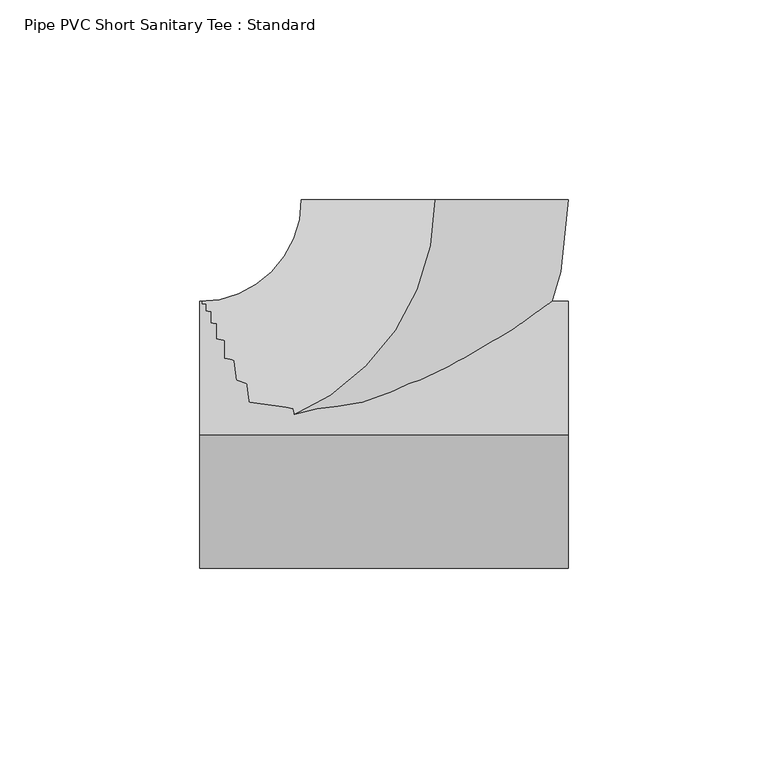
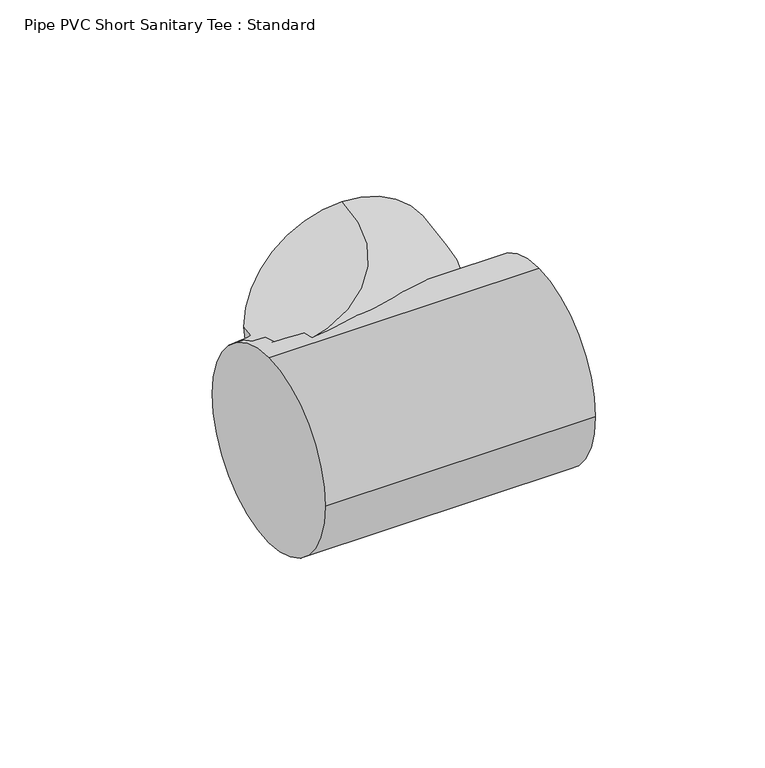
"""IFC4 building model written with IfcOpenShell, lengths in millimetres: pipe fitting geometry, Pipe PVC Short Sanitary Tee : Standard."""

from ifc_helpers import new_model, si_unit, point, frame, origin, origin_2d, place, context, project, spatial, circle_curve, ellipse_curve, trimmed, segment, composite_curve, outline, extrude, source, transform, mapped, element, save
from ifc_brep_helpers import plane_surface, revolved_surface, advanced_brep


def pipe_pvc_short_sanitary_tee_standard_372b41e4(model_context):
    return source(origin(), model_context, "Body", "SolidModel", [
        extrude(outline(composite_curve([segment(trimmed(circle_curve(origin_2d(), 33.3375), [point((0.0, 33.3375))], [point((33.3375, 0.0))], False, "CARTESIAN"), True, "CONTINUOUS"), segment(trimmed(circle_curve(origin_2d(), 33.3375), [point((33.3375, 0.0))], [point((0.0, -33.3375))], False, "CARTESIAN"), True, "CONTINUOUS"), segment(trimmed(circle_curve(origin_2d(), 33.3375), [point((0.0, -33.3375))], [point((-33.3375, 0.0))], False, "CARTESIAN"), True, "CONTINUOUS"), segment(trimmed(circle_curve(origin_2d(), 33.3375), [point((-33.3375, 0.0))], [point((0.0, 33.3375))], False, "CARTESIAN"), True, "CONTINUOUS")], self_intersect=False)), frame((-58.7321562, 0.0, 0.0), z_axis=(1.0, 0.0, 0.0), x_axis=(0.0, 1.0, 0.0)), (0.0, 0.0, 1.0), 92.0749998),
        advanced_brep(
        [(-58.7321562, 0.0, 33.3375), (-58.7321562, 33.3375, 0.0), (-58.7321562, 0.0, -33.3375), (-58.7321562, -33.3375, 0.0), (0.0053436, 58.732156, 33.3375), (33.3428434, 58.7291228, 0.0), (0.0053436, 58.732156, -33.3375), (-33.3321563, 58.7351891, 0.0)],
        [
            (0, 1, circle_curve(frame((-58.7321562, 0.0, 0.0), z_axis=(-1.0, 0.0, 0.0), x_axis=(0.0, 1.0, 0.0)), 33.3375)),
            (1, 2, circle_curve(frame((-58.7321562, 0.0, 0.0), z_axis=(-1.0, 0.0, 0.0), x_axis=(0.0, 1.0, 0.0)), 33.3375)),
            (2, 3, circle_curve(frame((-58.7321562, 0.0, 0.0), z_axis=(-1.0, 0.0, 0.0), x_axis=(0.0, 1.0, 0.0)), 33.3375)),
            (3, 0, circle_curve(frame((-58.7321562, 0.0, 0.0), z_axis=(-1.0, 0.0, 0.0), x_axis=(0.0, 1.0, 0.0)), 33.3375)),
            (4, 5, circle_curve(frame((0.0053436, 58.732156, 0.0), z_axis=(9.098188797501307e-05, 0.9999999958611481, 0.0), x_axis=(-0.9999999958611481, 9.098188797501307e-05, 0.0)), 33.3375)),
            (5, 6, circle_curve(frame((0.0053436, 58.732156, 0.0), z_axis=(9.098188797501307e-05, 0.9999999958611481, 0.0), x_axis=(-0.9999999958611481, 9.098188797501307e-05, 0.0)), 33.3375)),
            (6, 7, circle_curve(frame((0.0053436, 58.732156, 0.0), z_axis=(9.098188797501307e-05, 0.9999999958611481, 0.0), x_axis=(-0.9999999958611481, 9.098188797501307e-05, 0.0)), 33.3375)),
            (7, 4, circle_curve(frame((0.0053436, 58.732156, 0.0), z_axis=(9.098188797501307e-05, 0.9999999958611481, 0.0), x_axis=(-0.9999999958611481, 9.098188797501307e-05, 0.0)), 33.3375)),
            (7, 1, circle_curve(frame((-58.7321562, 58.7375, 0.0), z_axis=(0.0, 0.0, -1.0), x_axis=(0.0, -1.0, 0.0)), 25.4)),
            (0, 4, circle_curve(frame((-58.7321562, 58.7375, 33.3375), z_axis=(0.0, 0.0, 1.0), x_axis=(0.0, -1.0, 0.0)), 58.7375)),
            (6, 2, circle_curve(frame((-58.7321562, 58.7375, -33.3375), z_axis=(0.0, 0.0, -1.0), x_axis=(0.0, -1.0, 0.0)), 58.7375)),
            (5, 3, circle_curve(frame((-58.7321562, 58.7375, 0.0), z_axis=(0.0, 0.0, -1.0), x_axis=(0.0, -1.0, 0.0)), 92.075)),
        ],
        [
            plane_surface(frame((-58.7321562, 0.0, 0.0), z_axis=(-1.0, 0.0, 0.0), x_axis=(0.0, 0.0, 1.0))),
            plane_surface(frame((0.0053436, 58.732156, 0.0), z_axis=(9.098188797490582e-05, 0.9999999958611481, 0.0), x_axis=(0.0, 0.0, 1.0))),
            revolved_surface(trimmed(ellipse_curve(frame((-58.7321562, 0.0, 0.0), z_axis=(-1.0, 0.0, 0.0), x_axis=(0.0, 1.0, 0.0)), 33.3375, 33.3375), [point((-58.7321562, 0.0, 33.3375))], [point((-58.7321562, 33.3375, 0.0))], True, "CARTESIAN"), (-58.7321562, 58.7375, 0.0), (0.0, 0.0, 1.0)),
            revolved_surface(trimmed(ellipse_curve(frame((-58.7321562, 0.0, 0.0), z_axis=(-1.0, 0.0, 0.0), x_axis=(0.0, 1.0, 0.0)), 33.3375, 33.3375), [point((-58.7321562, 33.3375, 0.0))], [point((-58.7321562, 0.0, -33.3375))], True, "CARTESIAN"), (-58.7321562, 58.7375, 0.0), (0.0, 0.0, 1.0)),
            revolved_surface(trimmed(ellipse_curve(frame((-58.7321562, 0.0, 0.0), z_axis=(-1.0, 0.0, 0.0), x_axis=(0.0, 1.0, 0.0)), 33.3375, 33.3375), [point((-58.7321562, 0.0, -33.3375))], [point((-58.7321562, -33.3375, 0.0))], True, "CARTESIAN"), (-58.7321562, 58.7375, 0.0), (0.0, 0.0, 1.0)),
            revolved_surface(trimmed(ellipse_curve(frame((-58.7321562, 0.0, 0.0), z_axis=(-1.0, 0.0, 0.0), x_axis=(0.0, 1.0, 0.0)), 33.3375, 33.3375), [point((-58.7321562, -33.3375, 0.0))], [point((-58.7321562, 0.0, 33.3375))], True, "CARTESIAN"), (-58.7321562, 58.7375, 0.0), (0.0, 0.0, 1.0)),
        ],
        [
            (0, [[1, 2, 3, 4]]),
            (1, [[5, 6, 7, 8]]),
            (2, [[9, -1, 10, -8]]),
            (3, [[11, -2, -9, -7]]),
            (4, [[12, -3, -11, -6]]),
            (5, [[-10, -4, -12, -5]]),
        ],
    ),
        advanced_brep(
        [(-58.7321562, 0.0, 33.3375), (-58.7321562, 33.3375, 0.0), (-58.7321562, 0.0, -33.3375), (-58.7321562, -33.3375, 0.0), (0.0053436, 58.732156, 33.3375), (33.3428434, 58.7291228, 0.0), (0.0053436, 58.732156, -33.3375), (-33.3321563, 58.7351891, 0.0)],
        [
            (0, 1, circle_curve(frame((-58.7321562, 0.0, 0.0), z_axis=(-1.0, 0.0, 0.0), x_axis=(0.0, 1.0, 0.0)), 33.3375)),
            (1, 2, circle_curve(frame((-58.7321562, 0.0, 0.0), z_axis=(-1.0, 0.0, 0.0), x_axis=(0.0, 1.0, 0.0)), 33.3375)),
            (2, 3, circle_curve(frame((-58.7321562, 0.0, 0.0), z_axis=(-1.0, 0.0, 0.0), x_axis=(0.0, 1.0, 0.0)), 33.3375)),
            (3, 0, circle_curve(frame((-58.7321562, 0.0, 0.0), z_axis=(-1.0, 0.0, 0.0), x_axis=(0.0, 1.0, 0.0)), 33.3375)),
            (4, 5, circle_curve(frame((0.0053436, 58.732156, 0.0), z_axis=(9.098188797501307e-05, 0.9999999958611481, 0.0), x_axis=(-0.9999999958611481, 9.098188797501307e-05, 0.0)), 33.3375)),
            (5, 6, circle_curve(frame((0.0053436, 58.732156, 0.0), z_axis=(9.098188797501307e-05, 0.9999999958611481, 0.0), x_axis=(-0.9999999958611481, 9.098188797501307e-05, 0.0)), 33.3375)),
            (6, 7, circle_curve(frame((0.0053436, 58.732156, 0.0), z_axis=(9.098188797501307e-05, 0.9999999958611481, 0.0), x_axis=(-0.9999999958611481, 9.098188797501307e-05, 0.0)), 33.3375)),
            (7, 4, circle_curve(frame((0.0053436, 58.732156, 0.0), z_axis=(9.098188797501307e-05, 0.9999999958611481, 0.0), x_axis=(-0.9999999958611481, 9.098188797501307e-05, 0.0)), 33.3375)),
            (7, 1, circle_curve(frame((-58.7321562, 58.7375, 0.0), z_axis=(0.0, 0.0, -1.0), x_axis=(0.0, -1.0, 0.0)), 25.4)),
            (0, 4, circle_curve(frame((-58.7321562, 58.7375, 33.3375), z_axis=(0.0, 0.0, 1.0), x_axis=(0.0, -1.0, 0.0)), 58.7375)),
            (6, 2, circle_curve(frame((-58.7321562, 58.7375, -33.3375), z_axis=(0.0, 0.0, -1.0), x_axis=(0.0, -1.0, 0.0)), 58.7375)),
            (5, 3, circle_curve(frame((-58.7321562, 58.7375, 0.0), z_axis=(0.0, 0.0, -1.0), x_axis=(0.0, -1.0, 0.0)), 92.075)),
        ],
        [
            plane_surface(frame((-58.7321562, 0.0, 0.0), z_axis=(-1.0, 0.0, 0.0), x_axis=(0.0, 0.0, 1.0))),
            plane_surface(frame((0.0053436, 58.732156, 0.0), z_axis=(9.098188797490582e-05, 0.9999999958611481, 0.0), x_axis=(0.0, 0.0, 1.0))),
            revolved_surface(trimmed(ellipse_curve(frame((-58.7321562, 0.0, 0.0), z_axis=(-1.0, 0.0, 0.0), x_axis=(0.0, 1.0, 0.0)), 33.3375, 33.3375), [point((-58.7321562, 0.0, 33.3375))], [point((-58.7321562, 33.3375, 0.0))], True, "CARTESIAN"), (-58.7321562, 58.7375, 0.0), (0.0, 0.0, 1.0)),
            revolved_surface(trimmed(ellipse_curve(frame((-58.7321562, 0.0, 0.0), z_axis=(-1.0, 0.0, 0.0), x_axis=(0.0, 1.0, 0.0)), 33.3375, 33.3375), [point((-58.7321562, 33.3375, 0.0))], [point((-58.7321562, 0.0, -33.3375))], True, "CARTESIAN"), (-58.7321562, 58.7375, 0.0), (0.0, 0.0, 1.0)),
            revolved_surface(trimmed(ellipse_curve(frame((-58.7321562, 0.0, 0.0), z_axis=(-1.0, 0.0, 0.0), x_axis=(0.0, 1.0, 0.0)), 33.3375, 33.3375), [point((-58.7321562, 0.0, -33.3375))], [point((-58.7321562, -33.3375, 0.0))], True, "CARTESIAN"), (-58.7321562, 58.7375, 0.0), (0.0, 0.0, 1.0)),
            revolved_surface(trimmed(ellipse_curve(frame((-58.7321562, 0.0, 0.0), z_axis=(-1.0, 0.0, 0.0), x_axis=(0.0, 1.0, 0.0)), 33.3375, 33.3375), [point((-58.7321562, -33.3375, 0.0))], [point((-58.7321562, 0.0, 33.3375))], True, "CARTESIAN"), (-58.7321562, 58.7375, 0.0), (0.0, 0.0, 1.0)),
        ],
        [
            (0, [[1, 2, 3, 4]]),
            (1, [[5, 6, 7, 8]]),
            (2, [[9, -1, 10, -8]]),
            (3, [[11, -2, -9, -7]]),
            (4, [[12, -3, -11, -6]]),
            (5, [[-10, -4, -12, -5]]),
        ],
    ),
        extrude(outline(composite_curve([segment(trimmed(circle_curve(origin_2d(), 33.3375), [point((0.0, 33.3375))], [point((33.3375, 0.0))], False, "CARTESIAN"), True, "CONTINUOUS"), segment(trimmed(circle_curve(origin_2d(), 33.3375), [point((33.3375, 0.0))], [point((0.0, -33.3375))], False, "CARTESIAN"), True, "CONTINUOUS"), segment(trimmed(circle_curve(origin_2d(), 33.3375), [point((0.0, -33.3375))], [point((-33.3375, 0.0))], False, "CARTESIAN"), True, "CONTINUOUS"), segment(trimmed(circle_curve(origin_2d(), 33.3375), [point((-33.3375, 0.0))], [point((0.0, 33.3375))], False, "CARTESIAN"), True, "CONTINUOUS")], self_intersect=False)), frame((-58.7321562, 0.0, 0.0), z_axis=(1.0, 0.0, 0.0), x_axis=(0.0, 1.0, 0.0)), (0.0, 0.0, 1.0), 92.0749998),
    ])


if __name__ == "__main__":
    model = new_model("IFC4")
    model_context = context("Model", 3, world=origin())
    ifc_project = project(units=[si_unit("LENGTHUNIT", "METRE", prefix="MILLI")], contexts=[model_context])
    site = spatial("IfcSite", under=ifc_project)
    building = spatial("IfcBuilding", under=site)
    placement = place(None, origin())
    pipe_pvc_short_sanitary_tee_standard_shape = pipe_pvc_short_sanitary_tee_standard_372b41e4(model_context)
    element("IfcPipeFitting", 1, ObjectType="Pipe PVC Short Sanitary Tee : Standard", at=placement, inside=building, context=model_context, shape_type="MappedRepresentation", body=[
        mapped(pipe_pvc_short_sanitary_tee_standard_shape, transform((0.0, 0.0, 0.0), x_axis=(1.0, 0.0, 0.0), y_axis=(0.0, 1.0, 0.0), z_axis=(0.0, 0.0, 1.0))),
    ])
    save(model, "model.ifc")
